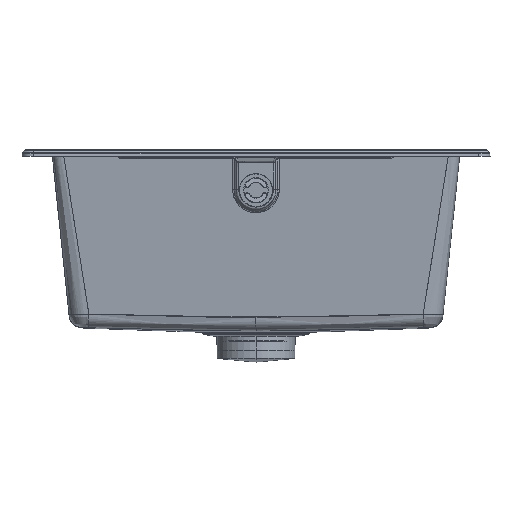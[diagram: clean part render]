
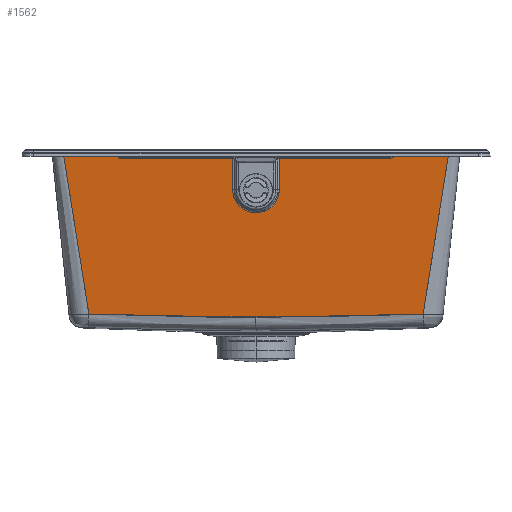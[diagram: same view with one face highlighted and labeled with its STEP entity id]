
A CAD part, left-side view. The second image highlights one B-rep face of the part: STEP entity #1562.
In plain terms, the highlighted planar face has unit normal (-0.995, 0, -0.104).
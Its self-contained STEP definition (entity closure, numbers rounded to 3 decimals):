
#1562=ADVANCED_FACE('',(#1970),#8070,.T.);
#1970=FACE_OUTER_BOUND('',#2387,.T.);
#2387=EDGE_LOOP('',(#3117));
#3117=ORIENTED_EDGE('',*,*,#5006,.T.);
#5006=EDGE_CURVE('',#7333,#7333,#6299,.T.);
#6299=B_SPLINE_CURVE_WITH_KNOTS('',3,(#17650,#17651,#17652,#17653,#17654,
#17655,#17656,#17657,#17658,#17659,#17660,#17661,#17662,#17663,#17664,#17665,
#17666,#17667,#17668,#17669,#17670,#17671,#17672,#17673,#17674,#17675,#17676,
#17677,#17678,#17679,#17680,#17681,#17682,#17683,#17684,#17685,#17686,#17687,
#17688,#17689,#17690,#17691,#17692,#17693,#17694,#17695,#17696,#17697,#17698,
#17699,#17700,#17701,#17702,#17703,#17704,#17705,#17706,#17707,#17708,#17709,
#17710,#17711,#17712,#17713,#17714,#17715,#17716,#17717,#17718,#17719,#17720,
#17721,#17722,#17723,#17724,#17725,#17726,#17727,#17728,#17729,#17730,#17731,
#17732,#17733,#17734),.UNSPECIFIED.,.T.,.F.,(4,3,3,1,1,1,3,1,1,1,3,3,3,
3,1,1,1,1,1,1,1,1,3,3,3,1,1,1,1,1,1,1,1,1,1,1,1,1,1,1,1,1,3,3,3,1,1,1,1,
1,1,1,1,3,4),(0.,1.,2.,2.25,2.5,2.75,3.,3.25,3.5,3.75,4.,5.,6.,7.,7.111,
7.222,7.333,7.444,7.556,7.667,
7.778,7.889,8.,9.,10.,10.063,10.125,10.188,10.25,
10.313,10.375,10.438,10.469,10.5,10.531,10.563,10.625,10.688,10.75,
10.813,10.875,10.938,11.,12.,13.,13.111,13.222,13.333,
13.444,13.556,13.667,13.778,13.889,
14.,15.),.UNSPECIFIED.);
#7333=VERTEX_POINT('',#17649);
#8070=PLANE('',#8139);
#8139=AXIS2_PLACEMENT_3D('',#17648,#8192,$);
#8192=DIRECTION('',(-0.995,0.,-0.105));
#17648=CARTESIAN_POINT('',(51.344,149.944,-182.714));
#17649=CARTESIAN_POINT('',(32.643,85.828,-4.791));
#17650=CARTESIAN_POINT('',(32.643,85.828,-4.791));
#17651=CARTESIAN_POINT('',(32.643,104.457,-4.791));
#17652=CARTESIAN_POINT('',(32.643,123.086,-4.791));
#17653=CARTESIAN_POINT('',(32.643,141.715,-4.791));
#17654=CARTESIAN_POINT('',(38.625,132.674,-61.706));
#17655=CARTESIAN_POINT('',(44.607,123.632,-118.622));
#17656=CARTESIAN_POINT('',(50.589,114.591,-175.537));
#17657=CARTESIAN_POINT('',(50.649,96.26,-176.107));
#17658=CARTESIAN_POINT('',(50.756,61.358,-177.123));
#17659=CARTESIAN_POINT('',(50.883,14.236,-178.327));
#17660=CARTESIAN_POINT('',(50.961,-27.497,-179.072));
#17661=CARTESIAN_POINT('',(50.977,-52.361,-179.229));
#17662=CARTESIAN_POINT('',(50.977,-64.,-179.225));
#17663=CARTESIAN_POINT('',(50.977,-75.639,-179.229));
#17664=CARTESIAN_POINT('',(50.961,-100.503,-179.072));
#17665=CARTESIAN_POINT('',(50.883,-142.236,-178.327));
#17666=CARTESIAN_POINT('',(50.756,-189.359,-177.123));
#17667=CARTESIAN_POINT('',(50.649,-224.259,-176.107));
#17668=CARTESIAN_POINT('',(50.589,-242.59,-175.537));
#17669=CARTESIAN_POINT('',(44.607,-251.632,-118.622));
#17670=CARTESIAN_POINT('',(38.625,-260.674,-61.706));
#17671=CARTESIAN_POINT('',(32.643,-269.715,-4.791));
#17672=CARTESIAN_POINT('',(32.643,-251.086,-4.791));
#17673=CARTESIAN_POINT('',(32.643,-232.457,-4.791));
#17674=CARTESIAN_POINT('',(32.643,-213.828,-4.791));
#17675=CARTESIAN_POINT('',(32.756,-212.758,-5.861));
#17676=CARTESIAN_POINT('',(32.868,-211.688,-6.931));
#17677=CARTESIAN_POINT('',(32.981,-210.618,-8.001));
#17678=CARTESIAN_POINT('',(32.994,-210.495,-8.125));
#17679=CARTESIAN_POINT('',(33.018,-210.238,-8.36));
#17680=CARTESIAN_POINT('',(33.052,-209.82,-8.682));
#17681=CARTESIAN_POINT('',(33.082,-209.374,-8.966));
#17682=CARTESIAN_POINT('',(33.108,-208.905,-9.21));
#17683=CARTESIAN_POINT('',(33.129,-208.416,-9.413));
#17684=CARTESIAN_POINT('',(33.146,-207.912,-9.571));
#17685=CARTESIAN_POINT('',(33.158,-207.397,-9.685));
#17686=CARTESIAN_POINT('',(33.165,-206.878,-9.753));
#17687=CARTESIAN_POINT('',(33.166,-206.531,-9.768));
#17688=CARTESIAN_POINT('',(33.166,-206.358,-9.768));
#17689=CARTESIAN_POINT('',(33.166,-167.181,-9.768));
#17690=CARTESIAN_POINT('',(33.166,-128.005,-9.768));
#17691=CARTESIAN_POINT('',(33.166,-88.828,-9.768));
#17692=CARTESIAN_POINT('',(34.316,-88.828,-20.706));
#17693=CARTESIAN_POINT('',(35.466,-88.828,-31.644));
#17694=CARTESIAN_POINT('',(36.615,-88.828,-42.582));
#17695=CARTESIAN_POINT('',(36.768,-88.828,-44.037));
#17696=CARTESIAN_POINT('',(37.086,-88.569,-47.056));
#17697=CARTESIAN_POINT('',(37.574,-87.251,-51.699));
#17698=CARTESIAN_POINT('',(38.044,-84.938,-56.174));
#17699=CARTESIAN_POINT('',(38.464,-81.683,-60.168));
#17700=CARTESIAN_POINT('',(38.804,-77.667,-63.406));
#17701=CARTESIAN_POINT('',(39.046,-73.167,-65.706));
#17702=CARTESIAN_POINT('',(39.16,-69.279,-66.797));
#17703=CARTESIAN_POINT('',(39.204,-66.218,-67.21));
#17704=CARTESIAN_POINT('',(39.214,-64.,-67.307));
#17705=CARTESIAN_POINT('',(39.204,-61.782,-67.21));
#17706=CARTESIAN_POINT('',(39.16,-58.721,-66.797));
#17707=CARTESIAN_POINT('',(39.046,-54.833,-65.706));
#17708=CARTESIAN_POINT('',(38.804,-50.333,-63.406));
#17709=CARTESIAN_POINT('',(38.464,-46.317,-60.168));
#17710=CARTESIAN_POINT('',(38.044,-43.062,-56.174));
#17711=CARTESIAN_POINT('',(37.574,-40.749,-51.699));
#17712=CARTESIAN_POINT('',(37.086,-39.431,-47.056));
#17713=CARTESIAN_POINT('',(36.768,-39.172,-44.037));
#17714=CARTESIAN_POINT('',(36.615,-39.172,-42.582));
#17715=CARTESIAN_POINT('',(35.466,-39.172,-31.644));
#17716=CARTESIAN_POINT('',(34.316,-39.172,-20.706));
#17717=CARTESIAN_POINT('',(33.166,-39.172,-9.768));
#17718=CARTESIAN_POINT('',(33.166,0.005,-9.768));
#17719=CARTESIAN_POINT('',(33.166,39.181,-9.768));
#17720=CARTESIAN_POINT('',(33.166,78.358,-9.768));
#17721=CARTESIAN_POINT('',(33.166,78.531,-9.768));
#17722=CARTESIAN_POINT('',(33.165,78.878,-9.753));
#17723=CARTESIAN_POINT('',(33.158,79.397,-9.685));
#17724=CARTESIAN_POINT('',(33.146,79.912,-9.571));
#17725=CARTESIAN_POINT('',(33.129,80.416,-9.413));
#17726=CARTESIAN_POINT('',(33.108,80.905,-9.21));
#17727=CARTESIAN_POINT('',(33.082,81.374,-8.966));
#17728=CARTESIAN_POINT('',(33.052,81.82,-8.682));
#17729=CARTESIAN_POINT('',(33.018,82.238,-8.36));
#17730=CARTESIAN_POINT('',(32.994,82.495,-8.125));
#17731=CARTESIAN_POINT('',(32.981,82.618,-8.001));
#17732=CARTESIAN_POINT('',(32.868,83.688,-6.931));
#17733=CARTESIAN_POINT('',(32.756,84.758,-5.861));
#17734=CARTESIAN_POINT('',(32.643,85.828,-4.791));
